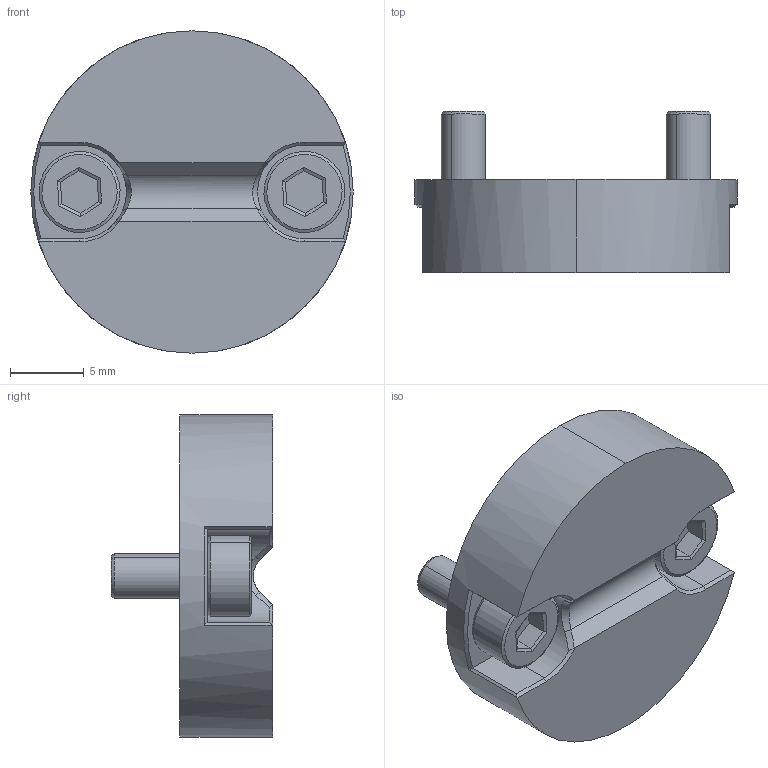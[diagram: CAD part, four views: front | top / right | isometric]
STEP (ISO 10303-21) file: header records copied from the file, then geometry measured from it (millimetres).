
FILE_DESCRIPTION (( 'STEP AP203' ), '1' );
FILE_NAME ('SRTMC-36.STEP', '2012-09-12T23:14:04', ( '' ), ( '' ), 'SwSTEP 2.0', 'SolidWorks 2010', '' );
FILE_SCHEMA (( 'CONFIG_CONTROL_DESIGN' ));
Length unit declared in the file: millimetre
Products named in the file (3): SRTMC-36_SHCS; SRTMC-36
Assembly tree (3 placements, depth 2):
  SRTMC-36
    SRTMC-36_SHCS  x2
    SRTMC-36
Bounding box: 21.84 x 10.95 x 21.84 mm (x, y, z)
Volume: 2181.3 mm3; surface area: 1592.8 mm2
Topology: 3 solids, 3 shells, 92 faces, 214 edges, 132 vertices
Faces by surface type: plane 51, cone 18, cylinder 17, bspline 6
Entity records: 2361 total; most frequent: CARTESIAN_POINT 536, ORIENTED_EDGE 320, DIRECTION 298, EDGE_CURVE 160, AXIS2_PLACEMENT_3D 108, VERTEX_POINT 100, LINE 82, VECTOR 82
